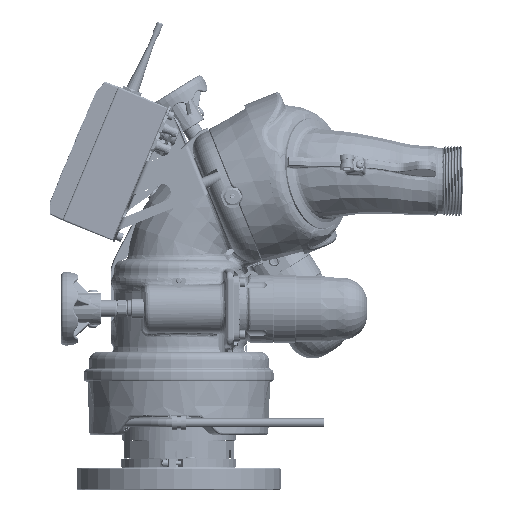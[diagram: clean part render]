
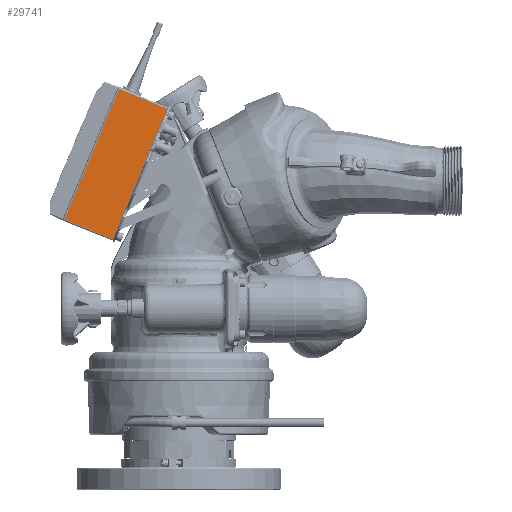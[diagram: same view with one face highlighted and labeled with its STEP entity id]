
A CAD part, top view. The second image highlights one B-rep face of the part: STEP entity #29741.
In plain terms, the highlighted planar face has unit normal (0.013, -0.005, 1).
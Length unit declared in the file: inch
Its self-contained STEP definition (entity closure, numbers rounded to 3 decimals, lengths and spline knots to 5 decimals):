
#1761 = VERTEX_POINT ( 'NONE', #68769 ) ;
#17665 = LINE ( 'NONE', #192740, #176879 ) ;
#23559 = DIRECTION ( 'NONE',  ( -0.386, -0.923, 0. ) ) ;
#23906 = PLANE ( 'NONE',  #40030 ) ;
#29741 = ADVANCED_FACE ( 'NONE', ( #180623 ), #23906, .T. ) ;
#39801 = EDGE_CURVE ( 'NONE', #73526, #1761, #156504, .T. ) ;
#40030 = AXIS2_PLACEMENT_3D ( 'NONE', #115629, #129739, #100852 ) ;
#40955 = CARTESIAN_POINT ( 'NONE',  ( -6.15777, 7.83434, 2.54788 ) ) ;
#47036 = EDGE_LOOP ( 'NONE', ( #169537, #189519, #128563, #72635 ) ) ;
#65813 = DIRECTION ( 'NONE',  ( 0.386, 0.923, 0. ) ) ;
#68769 = CARTESIAN_POINT ( 'NONE',  ( -6.09228, 7.80696, 2.54689 ) ) ;
#72635 = ORIENTED_EDGE ( 'NONE', *, *, #102408, .T. ) ;
#73526 = VERTEX_POINT ( 'NONE', #169105 ) ;
#81939 = CARTESIAN_POINT ( 'NONE',  ( -4.02029, 6.94069, 2.51553 ) ) ;
#84418 = CARTESIAN_POINT ( 'NONE',  ( -6.38867, 1.27585, 2.51553 ) ) ;
#94334 = EDGE_CURVE ( 'NONE', #119892, #73526, #152864, .T. ) ;
#100852 = DIRECTION ( 'NONE',  ( -0.923, 0.386, 0.014 ) ) ;
#102408 = EDGE_CURVE ( 'NONE', #1761, #175366, #17665, .T. ) ;
#104695 = VECTOR ( 'NONE', #65813, 39.37008 ) ;
#113737 = DIRECTION ( 'NONE',  ( -0.923, 0.386, 0.014 ) ) ;
#115497 = VECTOR ( 'NONE', #113737, 39.37008 ) ;
#115629 = CARTESIAN_POINT ( 'NONE',  ( -8.52615, 2.1695, 2.54788 ) ) ;
#119892 = VERTEX_POINT ( 'NONE', #84418 ) ;
#122885 = DIRECTION ( 'NONE',  ( -0.923, 0.386, 0.014 ) ) ;
#128563 = ORIENTED_EDGE ( 'NONE', *, *, #39801, .T. ) ;
#129739 = DIRECTION ( 'NONE',  ( 0.013, -0.005, 1. ) ) ;
#130419 = EDGE_CURVE ( 'NONE', #119892, #175366, #157391, .T. ) ;
#152864 = LINE ( 'NONE', #81939, #104695 ) ;
#156504 = LINE ( 'NONE', #40955, #115497 ) ;
#157391 = LINE ( 'NONE', #171349, #169333 ) ;
#169105 = CARTESIAN_POINT ( 'NONE',  ( -4.02029, 6.94069, 2.51553 ) ) ;
#169333 = VECTOR ( 'NONE', #122885, 39.37008 ) ;
#169537 = ORIENTED_EDGE ( 'NONE', *, *, #130419, .F. ) ;
#171349 = CARTESIAN_POINT ( 'NONE',  ( -8.52615, 2.1695, 2.54788 ) ) ;
#175366 = VERTEX_POINT ( 'NONE', #187483 ) ;
#176879 = VECTOR ( 'NONE', #23559, 39.37008 ) ;
#180623 = FACE_OUTER_BOUND ( 'NONE', #47036, .T. ) ;
#187483 = CARTESIAN_POINT ( 'NONE',  ( -8.46067, 2.14212, 2.54689 ) ) ;
#189519 = ORIENTED_EDGE ( 'NONE', *, *, #94334, .T. ) ;
#192740 = CARTESIAN_POINT ( 'NONE',  ( -8.46067, 2.14212, 2.54689 ) ) ;
